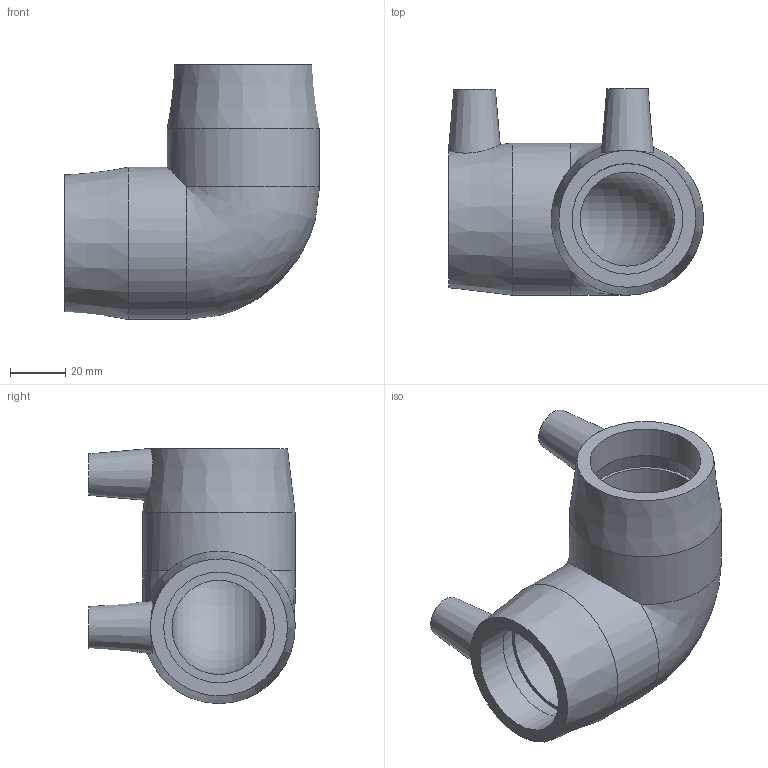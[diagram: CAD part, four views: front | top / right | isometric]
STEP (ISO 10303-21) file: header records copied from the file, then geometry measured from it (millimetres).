
FILE_DESCRIPTION(/* description */ ('PLASSON 90° ELBOW 40'),/* implementation_level */ '2;1');
FILE_NAME(/* name */ '490504040.stp',/* time_stamp */ '2026-03-22T13:14:55+02:00',/* author */ ('KIM'),/* organization */ (''),/* preprocessor_version */ 'ST-DEVELOPER v20.1',/* originating_system */ 'Autodesk Inventor 2026',/* authorisation */ '');
FILE_SCHEMA (('AUTOMOTIVE_DESIGN { 1 0 10303 214 3 1 1 }'));
Length unit declared in the file: millimetre
Products named in the file (1): 490504040
Bounding box: 92.15 x 74.5 x 92.15 mm (x, y, z)
Volume: 142588 mm3; surface area: 40580.7 mm2
Topology: 1 solids, 1 shells, 32 faces, 62 edges, 38 vertices
Faces by surface type: plane 12, cylinder 10, cone 8, bspline 1, torus 1
Full cylindrical faces by diameter (mm): 4 x2, 10 x2, 40 x4, 55 x2
Entity records: 945 total; most frequent: CARTESIAN_POINT 237, DIRECTION 152, ORIENTED_EDGE 120, AXIS2_PLACEMENT_3D 68, EDGE_CURVE 60, EDGE_LOOP 42, VERTEX_POINT 38, CIRCLE 35
